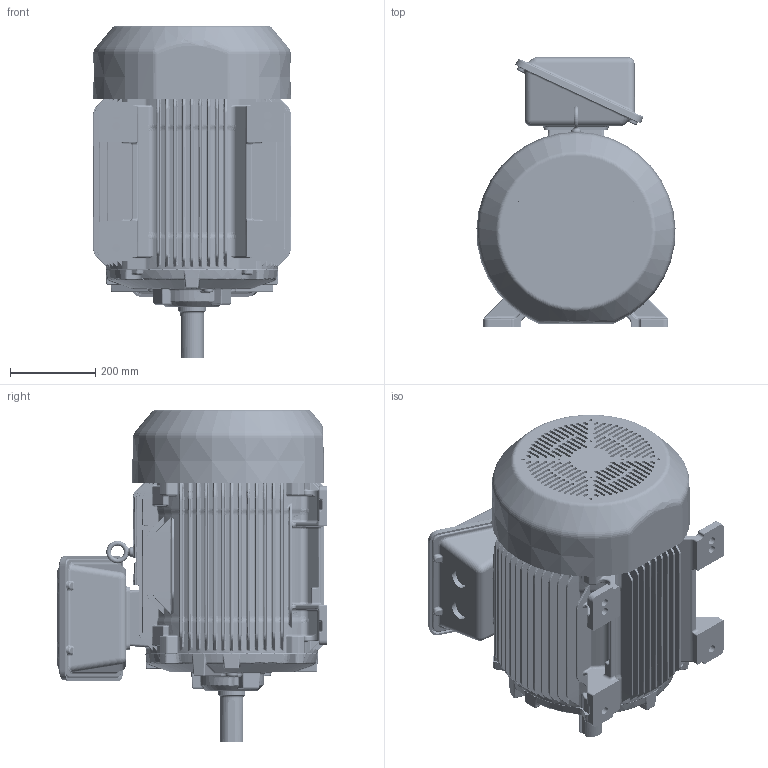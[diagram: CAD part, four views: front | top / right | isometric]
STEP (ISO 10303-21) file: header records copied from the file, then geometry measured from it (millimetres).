
FILE_DESCRIPTION((''),'2;1');
FILE_NAME('360_3D_TOP_ASM_ASM','2020-09-04T06:40:17',('EMD2341'),('Nidec Motor Corporation'),'CREO PARAMETRIC BY PTC INC, 2019080','CREO PARAMETRIC BY PTC INC, 2019080','');
FILE_SCHEMA(('CONFIG_CONTROL_DESIGN'));
Length unit declared in the file: inch
Products named in the file (10): 225_TOP_MNT; 360_DE_BRKT; 0133166; 360_CAST_GSK_OBB; 225_IEC; 360_CAST_GSK_OBC; 360_CAST_OBC; 360_STL_FCVR; 225_2POLE; 360_3D_TOP_ASM_ASM
Assembly tree (9 placements, depth 2):
  360_3D_TOP_ASM_ASM
    225_TOP_MNT
    360_DE_BRKT
    0133166
    360_CAST_GSK_OBB
    225_IEC
    360_CAST_GSK_OBC
    360_CAST_OBC
    360_STL_FCVR
    225_2POLE
Bounding box: 467.89 x 636.33 x 780.47 mm (x, y, z)
Volume: 101951511 mm3; surface area: 3609178.5 mm2
Topology: 9 solids, 10 shells, 5595 faces, 12820 edges, 7361 vertices
Faces by surface type: bspline 2278, cylinder 1222, plane 1147, extrusion 421, torus 376, sphere 92, cone 59
Entity records: 254316 total; most frequent: CARTESIAN_POINT 144254, ORIENTED_EDGE 25636, DIRECTION 18335, EDGE_CURVE 12820, VERTEX_POINT 7361, AXIS2_PLACEMENT_3D 6807, EDGE_LOOP 5737, FACE_OUTER_BOUND 5595
